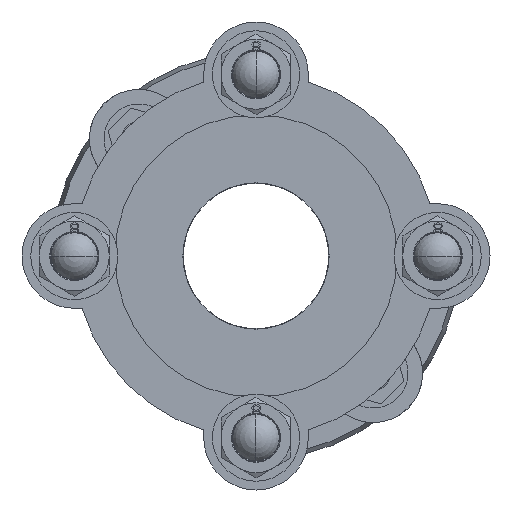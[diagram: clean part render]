
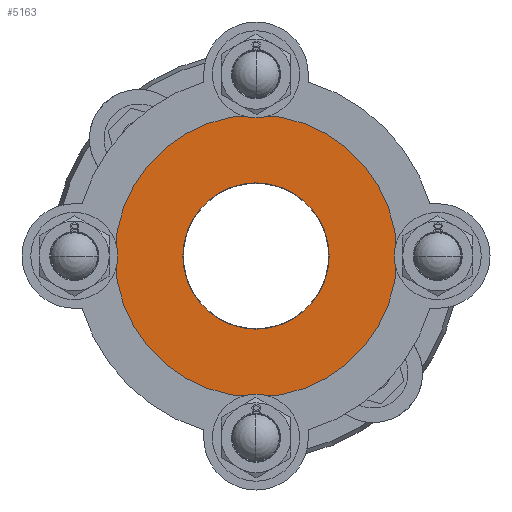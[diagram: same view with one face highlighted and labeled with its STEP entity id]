
A CAD part, front view. The second image highlights one B-rep face of the part: STEP entity #5163.
In plain terms, the highlighted planar face has unit normal (0, -1, 0) as drawn and (0, 1, 0) by its records, which use the part's own axes.
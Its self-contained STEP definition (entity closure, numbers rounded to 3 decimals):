
#4272=CARTESIAN_POINT('',(0.,0.,0.));
#4273=DIRECTION('',(0.,1.,0.));
#4274=DIRECTION('',(-1.,0.,0.));
#4275=AXIS2_PLACEMENT_3D('',#4272,#4273,#4274);
#4291=CARTESIAN_POINT('',(0.,0.,0.));
#4292=DIRECTION('',(0.,-1.,0.));
#4293=DIRECTION('',(-1.,0.,0.));
#4294=AXIS2_PLACEMENT_3D('',#4291,#4292,#4293);
#4300=CARTESIAN_POINT('',(0.,0.,0.));
#4301=DIRECTION('',(0.,-1.,0.));
#4302=DIRECTION('',(0.,0.,-1.));
#4303=AXIS2_PLACEMENT_3D('',#4300,#4301,#4302);
#4305=CARTESIAN_POINT('',(0.,0.,0.));
#4306=DIRECTION('',(0.,-1.,0.));
#4307=DIRECTION('',(-1.,0.,0.));
#4308=AXIS2_PLACEMENT_3D('',#4305,#4306,#4307);
#4670=CARTESIAN_POINT('',(-25.15,0.,0.));
#4672=VERTEX_POINT('',#4670);
#4674=CARTESIAN_POINT('',(0.,0.,-25.15));
#4676=VERTEX_POINT('',#4674);
#4742=CARTESIAN_POINT('',(-48.5,0.,0.));
#4744=VERTEX_POINT('',#4742);
#4746=CARTESIAN_POINT('',(0.,0.,-48.5));
#4748=VERTEX_POINT('',#4746);
#5148=CARTESIAN_POINT('',(0.,0.,0.));
#5149=DIRECTION('',(0.,-1.,0.));
#5150=DIRECTION('',(0.,0.,1.));
#5151=AXIS2_PLACEMENT_3D('',#5148,#5149,#5150);
#5152=PLANE('',#5151);
#5153=ORIENTED_EDGE('',*,*,#5127,.F.);
#5154=ORIENTED_EDGE('',*,*,#5143,.T.);
#5155=EDGE_LOOP('',(#5153,#5154));
#5156=FACE_OUTER_BOUND('',#5155,.F.);
#5158=ORIENTED_EDGE('',*,*,#5157,.F.);
#5160=ORIENTED_EDGE('',*,*,#5159,.F.);
#5161=EDGE_LOOP('',(#5158,#5160));
#5162=FACE_BOUND('',#5161,.F.);
#5163=ADVANCED_FACE('',(#5156,#5162),#5152,.F.);
#4276=CIRCLE('',#4275,48.5);
#4295=CIRCLE('',#4294,48.5);
#4304=CIRCLE('',#4303,25.15);
#4309=CIRCLE('',#4308,25.15);
#5127=EDGE_CURVE('',#4744,#4748,#4276,.T.);
#5143=EDGE_CURVE('',#4744,#4748,#4295,.T.);
#5157=EDGE_CURVE('',#4676,#4672,#4304,.T.);
#5159=EDGE_CURVE('',#4672,#4676,#4309,.T.);
